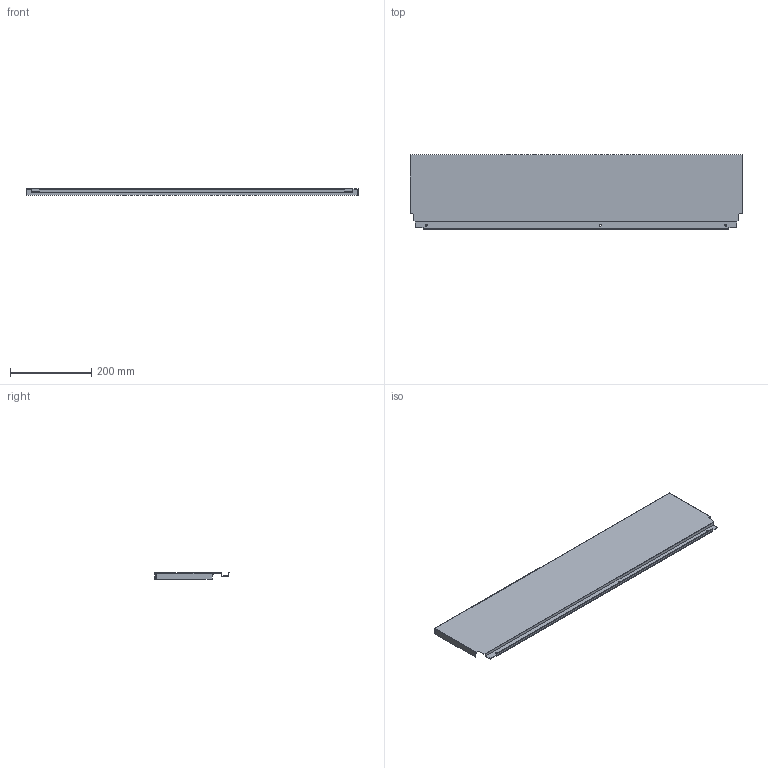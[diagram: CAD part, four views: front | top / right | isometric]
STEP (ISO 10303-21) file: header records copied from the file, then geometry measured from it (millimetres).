
FILE_DESCRIPTION (( 'STEP AP214' ), '1' );
FILE_NAME ('_DWD_XP Stahlrückwand_H182_KAB900_S17.step', '2010-07-08T12:57:48', ( 'grass' ), ( '' ), 'SwSTEP 2.0', 'SolidWorks 2010', '' );
FILE_SCHEMA (( 'AUTOMOTIVE_DESIGN' ));
Length unit declared in the file: millimetre
Products named in the file (1): _DWD_XP Stahlrückwand_H182_KAB900_S17
Bounding box: 815 x 182.49 x 16 mm (x, y, z)
Volume: 152903.6 mm3; surface area: 353590.6 mm2
Topology: 1 solids, 1 shells, 46 faces, 132 edges, 88 vertices
Faces by surface type: plane 40, cylinder 6
Entity records: 1534 total; most frequent: CARTESIAN_POINT 267, ORIENTED_EDGE 264, DIRECTION 238, EDGE_CURVE 132, LINE 120, VECTOR 120, VERTEX_POINT 88, AXIS2_PLACEMENT_3D 59
